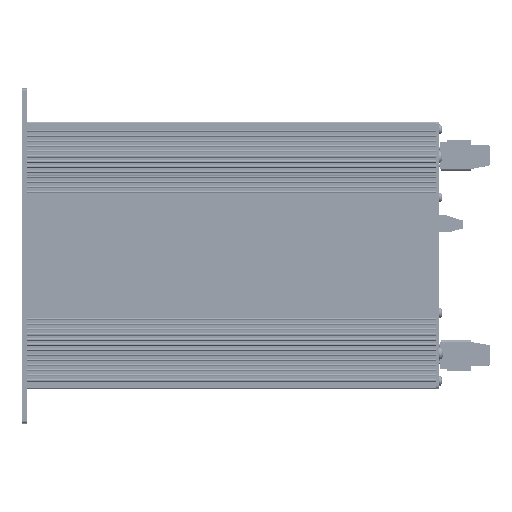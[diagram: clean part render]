
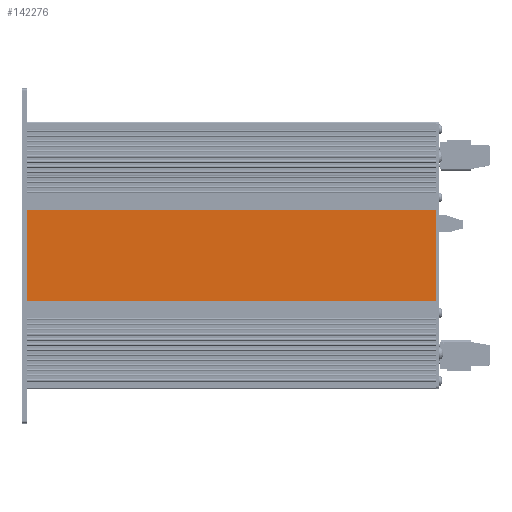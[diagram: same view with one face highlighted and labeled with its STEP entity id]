
A CAD part, top view. The second image highlights one B-rep face of the part: STEP entity #142276.
In plain terms, the highlighted planar face has unit normal (0, 0, 1) as drawn and (0, 0, -1) by its records, which use the part's own axes.
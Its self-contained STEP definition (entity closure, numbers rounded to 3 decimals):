
#21937=FACE_OUTER_BOUND('',#29374,.T.);
#29374=EDGE_LOOP('',(#118020,#118021,#118022,#118023));
#41652=LINE('',#237080,#52504);
#41653=LINE('',#237083,#52505);
#41654=LINE('',#237085,#52506);
#41655=LINE('',#237086,#52507);
#52504=VECTOR('',#189157,10.);
#52505=VECTOR('',#189160,10.);
#52506=VECTOR('',#189161,10.);
#52507=VECTOR('',#189162,10.);
#66955=VERTEX_POINT('',#237076);
#66956=VERTEX_POINT('',#237078);
#66957=VERTEX_POINT('',#237082);
#66958=VERTEX_POINT('',#237084);
#87412=EDGE_CURVE('',#66955,#66956,#41652,.T.);
#87413=EDGE_CURVE('',#66957,#66955,#41653,.T.);
#87414=EDGE_CURVE('',#66958,#66956,#41654,.T.);
#87415=EDGE_CURVE('',#66957,#66958,#41655,.T.);
#118020=ORIENTED_EDGE('',*,*,#87413,.T.);
#118021=ORIENTED_EDGE('',*,*,#87412,.T.);
#118022=ORIENTED_EDGE('',*,*,#87414,.F.);
#118023=ORIENTED_EDGE('',*,*,#87415,.F.);
#135876=PLANE('',#154903);
#142276=ADVANCED_FACE('',(#21937),#135876,.T.);
#154903=AXIS2_PLACEMENT_3D('',#237081,#189158,#189159);
#189157=DIRECTION('',(0.,1.,0.));
#189158=DIRECTION('center_axis',(0.,0.,-1.));
#189159=DIRECTION('ref_axis',(-1.,0.,0.));
#189160=DIRECTION('',(-1.,0.,0.));
#189161=DIRECTION('',(-1.,0.,0.));
#189162=DIRECTION('',(0.,1.,0.));
#237076=CARTESIAN_POINT('',(-146.17,0.,57.75));
#237078=CARTESIAN_POINT('',(-146.17,240.,57.75));
#237080=CARTESIAN_POINT('',(-146.17,0.,57.75));
#237081=CARTESIAN_POINT('Origin',(-92.67,0.,57.75));
#237082=CARTESIAN_POINT('',(-92.67,0.,57.75));
#237083=CARTESIAN_POINT('',(-88.32,0.,57.75));
#237084=CARTESIAN_POINT('',(-92.67,240.,57.75));
#237085=CARTESIAN_POINT('',(-88.32,240.,57.75));
#237086=CARTESIAN_POINT('',(-92.67,0.,57.75));
